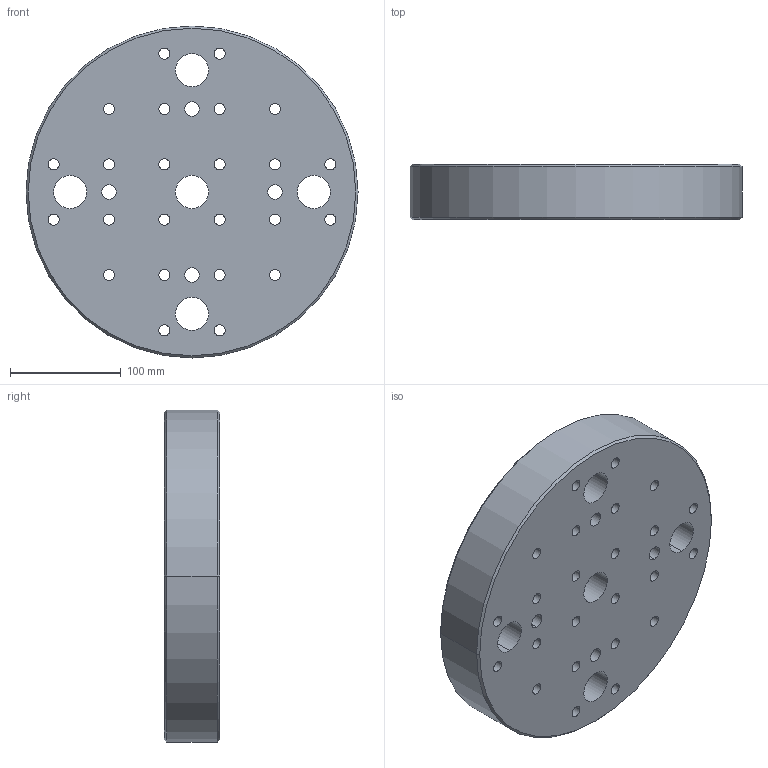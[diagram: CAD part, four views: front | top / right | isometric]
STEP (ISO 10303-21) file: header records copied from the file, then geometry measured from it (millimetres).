
FILE_DESCRIPTION((''),'2;1');
FILE_NAME('FG_WH_BASPL_RDGRDNP001','2026-05-19T10:50:01',('Admin'),(''),'CREO PARAMETRIC BY PTC INC, 2025010','CREO PARAMETRIC BY PTC INC, 2025010','');
FILE_SCHEMA(('CONFIG_CONTROL_DESIGN'));
Length unit declared in the file: millimetre
Products named in the file (1): FG_WH_BASPL_RDGRDNP001
Bounding box: 300 x 50 x 300 mm (x, y, z)
Volume: 3211588.8 mm3; surface area: 247151.8 mm2
Topology: 1 solids, 1 shells, 158 faces, 380 edges, 252 vertices
Faces by surface type: cylinder 124, plane 30, cone 4
Entity records: 4914 total; most frequent: DIRECTION 948, CARTESIAN_POINT 790, ORIENTED_EDGE 760, AXIS2_PLACEMENT_3D 410, EDGE_CURVE 380, VERTEX_POINT 252, EDGE_LOOP 252, CIRCLE 252
